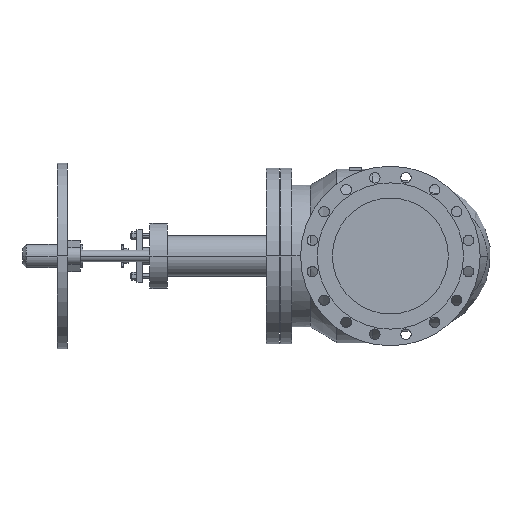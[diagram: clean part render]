
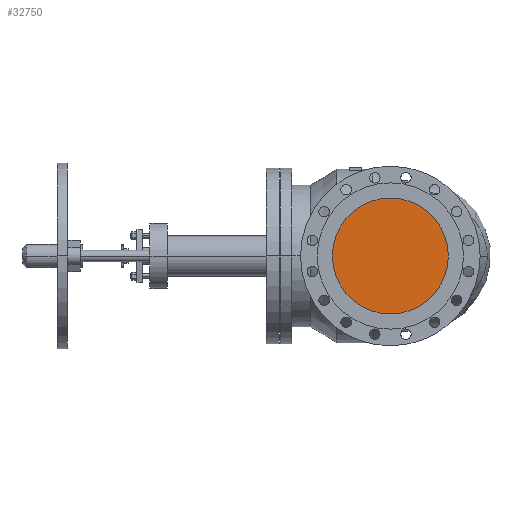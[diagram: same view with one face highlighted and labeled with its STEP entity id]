
A CAD part, left-side view. The second image highlights one B-rep face of the part: STEP entity #32750.
In plain terms, the highlighted planar face has unit normal (-1, 0, 0).
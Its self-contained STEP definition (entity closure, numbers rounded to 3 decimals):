
#20110=CARTESIAN_POINT('',(1.,-200.,0.));
#20120=VERTEX_POINT('',#20110);
#20280=CARTESIAN_POINT('',(1.,200.,0.));
#20290=VERTEX_POINT('',#20280);
#20320=CARTESIAN_POINT('',(1.,0.,0.));
#20330=DIRECTION('',(-1.,0.,0.));
#20340=DIRECTION('',(0.,1.,0.));
#20350=AXIS2_PLACEMENT_3D('',#20320,#20330,#20340);
#20360=CIRCLE('',#20350,200.);
#20370=EDGE_CURVE('',#20290,#20120,#20360,.T.);
#32650=CARTESIAN_POINT('',(1.,100.,0.));
#32660=DIRECTION('',(1.,0.,0.));
#32670=DIRECTION('',(0.,-1.,0.));
#32680=AXIS2_PLACEMENT_3D('',#32650,#32660,#32670);
#32690=PLANE('',#32680);
#32700=EDGE_CURVE('',#20120,#20290,#20360,.T.);
#32710=ORIENTED_EDGE('',*,*,#32700,.T.);
#32720=ORIENTED_EDGE('',*,*,#20370,.T.);
#32730=EDGE_LOOP('',(#32720,#32710));
#32740=FACE_OUTER_BOUND('',#32730,.T.);
#32750=ADVANCED_FACE('',(#32740),#32690,.F.);
